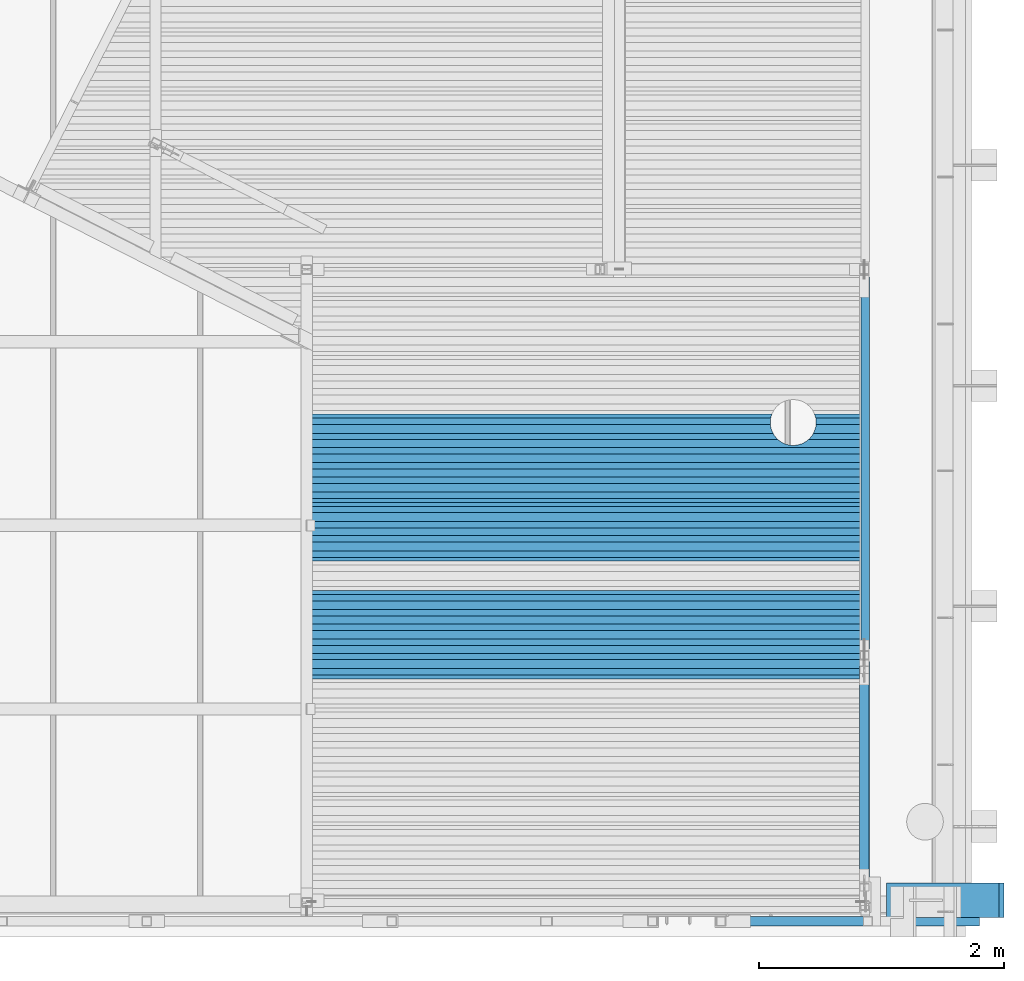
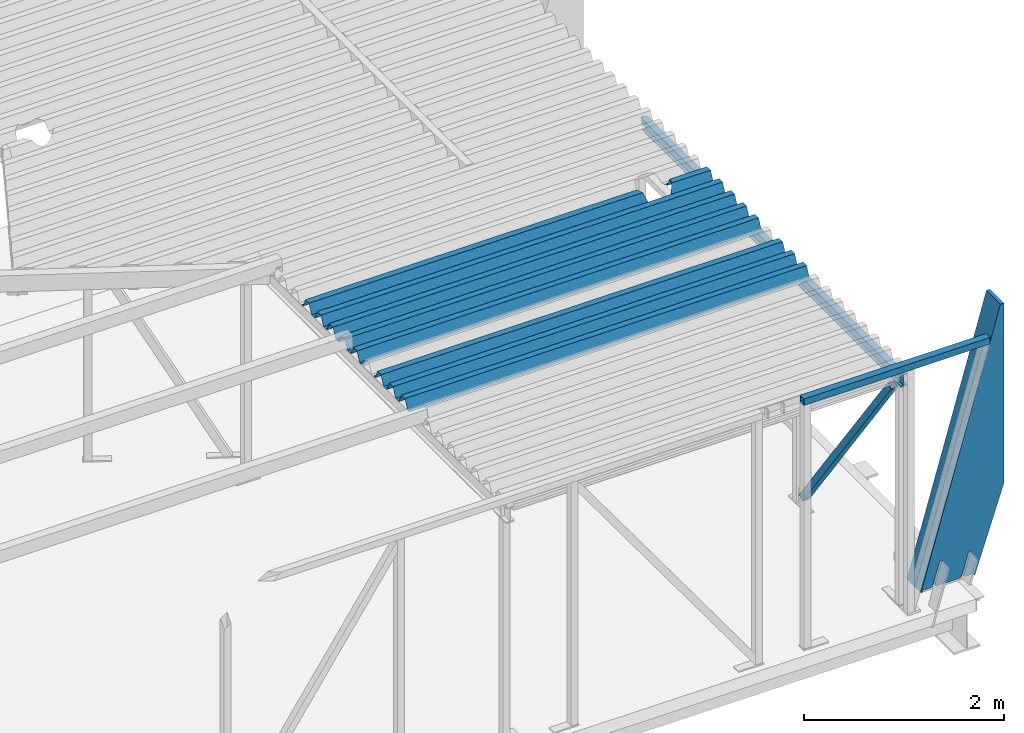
# One storey, part 8 of 30: 7 beams, 1 member.
"""IFC2X3 building model written with IfcOpenShell, lengths in millimetres."""

from ifc_helpers import new_model, entity, si_unit, converted_unit, derived_unit, direction, frame, origin_with_axes, place, context, subcontext, project, spatial, faceted_brep, material, type_object, element, save


model = new_model("IFC2X3")

# Units and contexts
model_context = context("Model", 3, precision=0.01, world=frame((0.0, 4.29681676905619e-09, 0.0)), true_north=direction((4.01073788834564e-13, 1.0)))
plan_context = context("Plan", 3, precision=0.01, world=frame((0.0, 4.29681676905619e-09, 0.0)), true_north=direction((4.01073788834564e-13, 1.0)))
body_context = subcontext(model_context, "Body", "Model", "MODEL_VIEW")
ifc_project = project(units=[converted_unit("PLANEANGLEUNIT", "DEGREE", entity("IfcPositiveLengthMeasure", 0.0174532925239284), si_unit("PLANEANGLEUNIT", "RADIAN"), dimensions=[0, 0, 0, 0, 0, 0, 0]), si_unit("AREAUNIT", "SQUARE_METRE"), si_unit("LENGTHUNIT", "METRE", prefix="MILLI"), si_unit("MASSUNIT", "GRAM", prefix="KILO"), si_unit("POWERUNIT", "WATT"), si_unit("PRESSUREUNIT", "PASCAL"), si_unit("FORCEUNIT", "NEWTON", prefix="KILO"), si_unit("ELECTRICVOLTAGEUNIT", "VOLT"), si_unit("ELECTRICCURRENTUNIT", "AMPERE"), si_unit("THERMODYNAMICTEMPERATUREUNIT", "DEGREE_CELSIUS"), si_unit("TIMEUNIT", "SECOND"), si_unit("VOLUMEUNIT", "CUBIC_METRE"), derived_unit("LINEARVELOCITYUNIT", [(si_unit("LENGTHUNIT", "METRE"), 1), (si_unit("TIMEUNIT", "SECOND"), -1)]), derived_unit("VOLUMETRICFLOWRATEUNIT", [(si_unit("VOLUMEUNIT", "CUBIC_METRE"), 1), (si_unit("TIMEUNIT", "SECOND"), -1)]), derived_unit("THERMALTRANSMITTANCEUNIT", [(si_unit("POWERUNIT", "WATT"), 1), (si_unit("THERMODYNAMICTEMPERATUREUNIT", "KELVIN"), -1), (si_unit("AREAUNIT", "SQUARE_METRE"), -1)]), derived_unit("SOUNDPRESSUREUNIT", [(si_unit("PRESSUREUNIT", "PASCAL"), 1)])], contexts=[model_context, plan_context])

# Site, building, storey
site_placement = place(None, frame((0.0, -4.29681676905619e-09, 0.0), z_axis=(0.0, 0.0, 1.0), x_axis=(1.0, 0.0, 0.0)))
site = spatial("IfcSite", under=ifc_project, at=site_placement, Name="Gardermoen", CompositionType="ELEMENT")
building_placement = place(site_placement, frame((0.0, 4.29681676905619e-09, 0.0), z_axis=(0.0, 0.0, 1.0), x_axis=(1.0, 0.0, 0.0)))
building = spatial("IfcBuilding", under=site, at=building_placement, Name="TI", CompositionType="ELEMENT")
storey_placement = place(building_placement, origin_with_axes())
storey = spatial("IfcBuildingStorey", under=building, at=storey_placement, Name="F", CompositionType="ELEMENT", Elevation=0.0)

# Beams
ifc_material_1 = material(Name="STEEL/S355J2H")
beam_type_1 = type_object("IfcBeamType", Name="IPE140", PredefinedType="NOTDEFINED")
beam_1_placement = place(storey_placement, frame((611296.991507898, 691300.064868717, 213629.999906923), z_axis=(0.0, 0.0, 1.0), x_axis=(0.0, 1.0, 0.0)))
element("IfcBeam", 1, at=beam_1_placement, inside=storey, type_object=beam_type_1, material=ifc_material_1, Name="STÅLBJELKE", ObjectType="IPE140", context=body_context, shape_type="Brep", body=[
    faceted_brep([(3089.51138991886, -36.4999998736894, 69.9999999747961), (3089.51138993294, -36.4999998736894, 63.0999998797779), (3089.51139147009, -2.34999977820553, 63.0999998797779), (3089.51139168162, 2.35000003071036, 63.0999998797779), (3089.51139321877, 36.5000001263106, 63.0999998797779), (3089.51139320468, 36.5000001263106, 69.9999999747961), (3097.51139148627, -2.34999977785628, 54.9997973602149), (3097.5113916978, 2.35000003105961, 54.9997973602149), (3135.00390028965, -2.34999977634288, 54.9997974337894), (3135.00390028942, 2.35000003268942, 54.9997974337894), (50.0000078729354, -2.34999990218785, -63.099999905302), (49.9999956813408, -36.4999999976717, -63.099999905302), (3065.0013740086, -36.4999998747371, -63.0999999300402), (3065.00137776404, -2.34999977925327, -63.0999999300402), (49.9999957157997, -36.4999999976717, -70.000000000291), (3065.00137402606, -36.4999998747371, -70.0000000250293), (50.0000217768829, 36.5000000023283, -70.000000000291), (3065.00138205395, 36.5000001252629, -70.0000000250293), (50.000021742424, 36.5000000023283, -63.099999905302), (3065.00138203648, 36.5000001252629, -63.0999999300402), (50.0000072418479, -2.34999990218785, 63.0999999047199), (49.9999950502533, -36.4999999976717, 63.0999999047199), (49.9999950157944, -36.4999999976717, 69.999999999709), (50.0000210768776, 36.5000000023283, 69.999999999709), (50.0000211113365, 36.5000000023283, 63.0999999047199), (50.000008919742, 2.34999990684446, 63.0999999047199), (50.0000095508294, 2.34999990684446, -63.099999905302), (3065.00137828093, 2.35000002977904, -63.0999999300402), (3073.00137826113, 2.35000003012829, -55.0000000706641), (3073.00137774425, -2.34999977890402, -55.0000000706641), (3135.00390029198, -2.34999977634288, -55.0000000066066), (3135.00390029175, 2.35000003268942, -55.0000000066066)], [[[0, 1, 2, 3, 4, 5]], [[6, 7, 3, 2]], [[8, 9, 7, 6]], [[10, 11, 12, 13]], [[11, 14, 15, 12]], [[14, 16, 17, 15]], [[16, 18, 19, 17]], [[14, 11, 10, 20, 21, 22, 23, 24, 25, 26, 18, 16]], [[18, 26, 27, 19]], [[12, 15, 17, 19, 27, 13]], [[13, 27, 28, 29]], [[30, 29, 28, 31]], [[2, 20, 10, 13, 29, 30, 8, 6]], [[21, 20, 2, 1]], [[22, 21, 1, 0]], [[23, 22, 0, 5]], [[24, 23, 5, 4]], [[25, 24, 4, 3]], [[31, 28, 27, 26, 25, 3, 7, 9]], [[30, 31, 9, 8]]]),
])
beam_2_placement = place(storey_placement, frame((611296.991935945, 689197.496304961, 213629.999913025), z_axis=(0.0, 0.0, 1.0), x_axis=(0.0, 1.0, 0.0)))
element("IfcBeam", 2, at=beam_2_placement, inside=storey, type_object=beam_type_1, material=ifc_material_1, Name="STÅLBJELKE", ObjectType="IPE140", context=body_context, shape_type="Brep", body=[
    faceted_brep([(0.0, 36.5, -70.0), (0.0, 36.5, -63.0999999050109), (2052.56857960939, 36.4999999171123, -63.0999999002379), (2052.56857962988, 36.4999999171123, -69.9999999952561), (0.0, 2.34999990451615, -63.0999999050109), (2052.56857264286, 2.34999982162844, -63.0999999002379), (0.0, 2.34999990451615, 63.0999999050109), (2052.56857226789, 2.34999982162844, 63.0999999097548), (0.0, 36.5, 63.0999999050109), (2052.56857923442, 36.4999999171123, 63.0999999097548), (0.0, 36.5, 70.0), (2052.56857921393, 36.4999999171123, 70.0000000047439), (0.0, -36.5, 70.0), (2052.56856432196, -36.5000000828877, 70.0000000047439), (0.0, -36.5, 63.0999999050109), (2052.56856434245, -36.5000000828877, 63.0999999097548), (0.0, -2.34999990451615, 63.0999999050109), (2052.56857130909, -2.34999998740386, 63.0999999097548), (0.0, -2.34999990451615, -63.0999999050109), (2052.56857168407, -2.34999998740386, -63.0999999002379), (0.0, -36.5, -63.0999999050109), (2052.56856471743, -36.5000000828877, -63.0999999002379), (0.0, -36.5, -70.0), (2052.56856473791, -36.5000000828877, -69.9999999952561)], [[[0, 1, 2, 3]], [[1, 4, 5, 2]], [[4, 6, 7, 5]], [[6, 8, 9, 7]], [[8, 10, 11, 9]], [[10, 12, 13, 11]], [[12, 14, 15, 13]], [[14, 16, 17, 15]], [[16, 18, 19, 17]], [[18, 20, 21, 19]], [[20, 22, 23, 21]], [[22, 0, 3, 23]], [[5, 7, 9, 11, 13, 15, 17, 19, 21, 23, 3, 2]], [[22, 20, 18, 16, 14, 12, 10, 8, 6, 4, 1, 0]]]),
])
beam_type_2 = type_object("IfcBeamType", Name="PL280*4267", PredefinedType="NOTDEFINED")
beam_3_placement = place(storey_placement, frame((611580.926887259, 689299.999863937, 220824.676036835), z_axis=(0.730066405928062, 0.0, 0.683376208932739), x_axis=(0.683376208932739, 0.0, -0.730066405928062)))
element("IfcBeam", 3, at=beam_3_placement, inside=storey, type_object=beam_type_2, Name="TREBJELKE", ObjectType="PL280*4267", context=body_context, shape_type="Brep", body=[
    faceted_brep([(7390.09727369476, 12.4996687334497, -6451.60250179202), (7199.64235973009, 12.4996687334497, -6655.06983461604), (7181.80062851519, 12.4996687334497, -6653.08312884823), (7163.00325317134, 12.4996687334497, -6621.04594817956), (7373.96174574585, 12.4996687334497, -6395.6741742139), (7392.75664105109, 12.4996687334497, -6427.71400436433), (7163.00325317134, -12.5003312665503, -6621.04594817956), (7373.96174574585, -12.5003312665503, -6395.6741742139), (7181.80062851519, -12.5003312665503, -6653.08312884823), (7199.64235973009, -12.5003312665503, -6655.06983461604), (7390.09727369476, -12.5003312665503, -6451.60250179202), (7392.75664105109, -12.5003312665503, -6427.71400436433), (7501.75748012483, -140.0, -6332.31335397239), (7501.75748012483, 119.957864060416, -6332.31335397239), (7427.70337700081, 119.957864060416, -6411.42704305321), (7427.70337700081, -140.0, -6411.42704305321), (7409.86164578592, 119.957864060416, -6409.4403372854), (7409.86164578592, -140.0, -6409.4403372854), (7265.45024865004, 119.957864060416, -6163.3139665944), (7265.45024865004, -140.0, -6163.3139665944), (7244.75066318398, 119.957864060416, -6175.45883032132), (7244.75066318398, -140.0, -6175.45883032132), (5388.53709033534, 140.0, -3937.34241097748), (5388.53709033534, -140.0, -3937.34241097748), (7097.93798790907, -140.0, -6794.45312545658), (7097.93798790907, 140.0, -6794.45312545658), (7020.52914718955, 140.0, -5408.53504620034), (5416.68961053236, 140.0, -3907.26643091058), (7523.88720665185, 140.0, -6339.40136764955), (7020.52914718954, -140.0, -5408.53504620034), (7523.88720665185, -140.0, -6339.40136764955), (7517.08880780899, 119.957864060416, -6346.6641917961), (7517.08880780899, -140.0, -6346.6641917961), (7110.48006061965, -140.0, -6781.0541286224), (7110.47979669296, 119.957864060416, -6781.05388157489), (7035.85420037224, -140.0, -6404.34031232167), (7035.85420037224, 119.957864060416, -6404.34031232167), (7015.15429217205, 119.957864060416, -6416.4861906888), (7015.15429217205, -140.0, -6416.4861906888), (7164.69563942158, 119.957864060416, -6671.35677921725), (7164.69563942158, -140.0, -6671.35677921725), (7162.03625121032, 119.957864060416, -6695.24529892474), (7162.03625121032, -140.0, -6695.24529892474), (7095.14846900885, 119.957864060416, -6766.7030437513), (7095.14846900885, -140.0, -6766.7030437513), (7181.80062851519, 119.957864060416, -6653.08312884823), (7199.64235973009, 119.957864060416, -6655.06983461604), (7390.09727369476, 119.957864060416, -6451.60250179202), (7392.75664105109, 119.957864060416, -6427.71400436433), (5416.68961053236, -140.0, -3907.26643091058), (7392.75664105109, -140.0, -6427.71400436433), (7390.09727369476, -140.0, -6451.60250179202), (7199.64235973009, -140.0, -6655.06983461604), (7181.80062851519, -140.0, -6653.08312884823)], [[[0, 1, 2, 3, 4, 5]], [[4, 3, 6, 7]], [[7, 6, 8, 9, 10, 11]], [[12, 13, 14, 15]], [[15, 14, 16, 17]], [[17, 16, 18, 19]], [[19, 18, 20, 21]], [[22, 23, 24, 25]], [[26, 27, 22, 25, 28]], [[29, 26, 28, 30]], [[31, 32, 30, 28, 25, 24, 33, 34]], [[35, 36, 37, 38]], [[38, 37, 39, 40]], [[40, 39, 41, 42]], [[42, 41, 43, 44]], [[44, 43, 34, 33]], [[34, 43, 41, 39, 37, 36, 45, 46, 47, 48, 20, 18, 16, 14, 13, 31]], [[31, 13, 12, 32]], [[23, 49, 29, 30, 32, 12, 15, 17, 19, 21, 50, 51, 52, 53, 35, 38, 40, 42, 44, 33, 24]], [[7, 11, 50, 21, 20, 48, 5, 4]], [[0, 5, 48, 47]], [[1, 0, 47, 46]], [[2, 1, 46, 45]], [[8, 6, 3, 2, 45, 36, 35, 53]], [[9, 8, 53, 52]], [[10, 9, 52, 51]], [[11, 10, 51, 50]], [[27, 26, 29, 49]], [[49, 23, 22, 27]]], orient=[[False], [False], [False], [False], [False], [False], [False], [False], [False], [False], [False], [False], [False], [False], [False], [False], [False], [False], [False], [False], [False], [False], [False], [False], [False], [False], [False], [False], [False]]),
])
ifc_material_2 = material(Name="STEEL/S355")
beam_type_3 = type_object("IfcBeamType", Name="RHS80*80*6.3", PredefinedType="NOTDEFINED")
beam_4_placement = place(storey_placement, frame((610079.992392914, 689127.50260355, 213855.000686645), z_axis=(0.0, 0.0, 1.0), x_axis=(1.0, 0.0, 0.0)))
element("IfcBeam", 4, at=beam_4_placement, inside=storey, type_object=beam_type_3, material=ifc_material_2, Name="STÅLBJELKE", ObjectType="RHS80*80*6.3", context=body_context, shape_type="Brep", body=[
    faceted_brep([(0.0, 33.6999998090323, -33.6999998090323), (0.0, -33.6999998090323, -33.6999998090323), (2149.02521417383, -33.699999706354, -33.6999998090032), (2149.02521417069, 33.6999999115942, -33.6999998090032), (0.0, -33.6999998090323, 33.6999998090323), (2149.02521417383, -33.699999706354, 33.6999998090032), (0.0, 33.6999998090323, 33.6999998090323), (2149.02521417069, 33.6999999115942, 33.6999998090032), (0.0, 40.0, -40.0), (0.0, 40.0, 40.0), (2149.02521417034, 40.0000001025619, 40.0), (2149.02521417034, 40.0000001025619, -40.0), (0.0, -40.0, 40.0), (2149.02521417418, -39.9999998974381, 40.0), (0.0, -40.0, -40.0), (2149.02521417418, -39.9999998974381, -40.0)], [[[0, 1, 2, 3]], [[1, 4, 5, 2]], [[4, 6, 7, 5]], [[6, 0, 3, 7]], [[8, 9, 10, 11]], [[9, 12, 13, 10]], [[12, 14, 15, 13]], [[14, 8, 11, 15]], [[13, 15, 11, 10], [5, 7, 3, 2]], [[14, 12, 9, 8], [6, 4, 1, 0]]]),
])
beam_type_4 = type_object("IfcBeamType", Name="PLANNJA111", PredefinedType="NOTDEFINED")
beam_5_placement = place(storey_placement, frame((606690.830439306, 692907.497611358, 213755.499847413), z_axis=(0.0, 0.0, 1.0), x_axis=(1.0, 0.0, 0.0)))
element("IfcBeam", 5, at=beam_5_placement, inside=storey, type_object=beam_type_4, material=ifc_material_1, Name="STÅLBJELKE", ObjectType="PLANNJA111", context=body_context, shape_type="Brep", body=[
    faceted_brep([(4192.54764814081, 360.000000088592, -54.7500000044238), (4192.54764812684, 360.000000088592, -55.7500000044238), (4201.90370318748, 329.157251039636, -55.7500000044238), (4201.90370320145, 329.157251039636, -54.7500000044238), (3843.46529050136, 360.000000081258, -54.7500000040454), (3834.10922305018, 329.157148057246, -54.7500000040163), (3834.10922303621, 329.157148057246, -55.7500000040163), (3843.46529048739, 360.000000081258, -55.7500000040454), (3834.00844331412, 328.133911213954, -54.7500000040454), (3830.50647442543, 292.577711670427, 20.6128485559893), (3830.50647439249, 292.577711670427, 18.2692474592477), (3833.94600868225, 327.500000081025, -55.7500000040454), (3834.10924508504, 255.998277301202, 55.7499999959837), (3834.10924507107, 255.998277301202, 54.7499999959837), (3832.20167665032, 275.366088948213, 54.7499999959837), (3832.13924168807, 276.000000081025, 55.7499999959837), (3844.77908266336, 220.824572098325, 55.7499999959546), (3844.77908264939, 220.824572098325, 54.7499999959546), (3862.10595131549, 188.408301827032, 22.7027449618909), (3862.10595128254, 188.408301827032, 20.3591438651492), (3853.43317702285, 204.633911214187, 54.7499999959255), (3853.77200982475, 204.000000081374, 55.7499999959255), (3885.42398926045, 159.995205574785, -37.5199981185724), (3885.42398922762, 159.995205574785, -39.863599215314), (3913.83709832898, 136.677182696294, -54.7500000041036), (3913.83709831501, 136.677182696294, -55.7500000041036), (3894.55692854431, 152.500000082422, -55.7500000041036), (3895.32935194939, 151.866088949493, -54.7500000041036), (3946.25337830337, 119.350331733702, -54.7500000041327), (3946.25337828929, 119.350331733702, -55.7500000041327), (3981.42708948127, 108.680513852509, -54.750000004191), (3981.4270894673, 108.680513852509, -55.750000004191), (4018.00652586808, 105.077764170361, -54.7500000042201), (4018.00652585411, 105.077764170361, -55.7500000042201), (4054.58596023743, 108.680534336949, -54.7500000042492), (4054.58596022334, 108.680534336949, -55.7500000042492), (4089.75966544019, 119.350371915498, -54.7500000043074), (4089.75966542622, 119.350371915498, -55.7500000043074), (4122.17593571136, 136.677241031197, -54.7500000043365), (4122.17593569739, 136.677241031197, -55.7500000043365), (4150.5890322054, 159.995279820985, -37.5198407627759), (4150.58903217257, 159.995279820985, -39.8634418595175), (4141.45601239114, 152.500000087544, -55.7500000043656), (4140.68358989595, 151.866088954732, -54.7500000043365), (4173.90705592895, 188.408389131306, 22.7029299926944), (4173.90705589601, 188.408389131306, 20.3593288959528), (4191.23390735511, 220.824669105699, 55.7499999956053), (4191.23390734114, 220.824669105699, 54.7499999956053), (4182.57977278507, 204.633911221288, 54.7499999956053), (4182.24094046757, 204.000000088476, 55.7499999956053), (4201.90372523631, 255.998380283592, 55.7499999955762), (4201.90372522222, 255.998380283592, 54.7499999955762), (4205.50647442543, 292.577816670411, 20.6126260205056), (4205.50647439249, 292.577816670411, 18.2690249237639), (4203.81127255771, 275.366088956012, 54.7499999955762), (4203.87370718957, 276.000000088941, 55.7499999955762), (4202.00449367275, 328.133911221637, -54.7500000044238), (4202.06692863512, 327.500000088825, -55.7500000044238), (2.56113708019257e-09, -35.3660888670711, 54.75), (1.39698386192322e-09, 35.3660888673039, 54.75), (4635.31149586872, 35.3660889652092, 54.7499999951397), (4635.31149587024, -35.3660887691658, 54.7499999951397), (-6.98491930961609e-10, -87.4999999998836, -55.75), (4635.31149586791, -87.4999999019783, -55.7500000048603), (3.49245965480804e-10, -152.499999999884, -55.75), (4635.3114958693, -152.499999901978, -55.7500000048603), (5.23868948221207e-09, -204.633911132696, 54.75), (4635.31149587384, -204.633911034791, 54.7499999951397), (6.40284270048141e-09, -275.366088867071, 54.75), (4635.31149587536, -275.366088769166, 54.7499999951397), (3.14321368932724e-09, -327.499999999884, -55.75), (4635.31149587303, -327.499999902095, -55.7500000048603), (3.72529029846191e-09, -359.999999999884, -55.75), (4635.31149587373, -359.999999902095, -55.7500000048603), (3.72529029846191e-09, -359.999999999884, -54.75), (4635.31149587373, -359.999999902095, -54.7500000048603), (3.25962901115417e-09, -328.133911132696, -54.75), (4635.31149587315, -328.133911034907, -54.7500000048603), (6.40284270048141e-09, -275.999999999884, 55.75), (4635.31149587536, -275.999999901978, 55.7499999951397), (5.23868948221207e-09, -203.999999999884, 55.75), (4635.31149587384, -203.999999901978, 55.7499999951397), (4.65661287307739e-10, -151.866088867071, -54.75), (4635.31149586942, -151.866088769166, -54.7500000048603), (-5.82076609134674e-10, -88.1339111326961, -54.75), (4635.31149586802, -88.1339110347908, -54.7500000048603), (2.56113708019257e-09, -35.9999999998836, 55.75), (4635.31149587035, -35.9999999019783, 55.7499999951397), (1.39698386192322e-09, 36.0000000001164, 55.75), (4635.31149586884, 36.0000000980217, 55.7499999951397), (-3.37604433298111e-09, 88.1339111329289, -54.75), (4635.3114958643, 88.1339112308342, -54.7500000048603), (-7.79982656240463e-09, 360.000000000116, -55.75), (-7.33416527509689e-09, 327.500000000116, -55.75), (-2.44472175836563e-09, 275.366088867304, 54.75), (-1.28056854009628e-09, 204.633911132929, 54.75), (-4.54019755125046e-09, 152.500000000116, -55.75), (-3.49245965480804e-09, 87.5000000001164, -55.75), (-4.42378222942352e-09, 151.866088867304, -54.75), (-1.28056854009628e-09, 204.000000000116, 55.75), (-2.44472175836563e-09, 276.000000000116, 55.75), (-7.21774995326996e-09, 328.133911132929, -54.75), (-7.79982656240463e-09, 360.000000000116, -54.75), (4635.3114958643, 87.5000000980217, -55.7500000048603), (4635.31149586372, 276.000000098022, 55.7499999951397), (4635.31149586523, 204.000000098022, 55.7499999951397), (4635.31149586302, 151.866088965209, -54.7500000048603), (4635.3114958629, 152.500000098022, -55.7500000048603), (4635.31149586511, 204.633911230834, 54.7499999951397), (4635.31149586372, 275.366088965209, 54.7499999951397), (4635.31149585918, 327.500000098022, -55.7500000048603), (4635.31149585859, 360.000000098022, -55.7500000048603), (4635.31149585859, 360.000000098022, -54.7500000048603), (4635.31149585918, 328.133911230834, -54.7500000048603)], [[[0, 1, 2, 3]], [[4, 5, 6, 7]], [[8, 9, 10, 11, 6, 5]], [[12, 13, 14, 10, 9, 15]], [[16, 17, 13, 12]], [[18, 19, 20, 17, 16, 21]], [[22, 23, 19, 18]], [[24, 25, 26, 23, 22, 27]], [[28, 29, 25, 24]], [[30, 31, 29, 28]], [[32, 33, 31, 30]], [[34, 35, 33, 32]], [[36, 37, 35, 34]], [[38, 39, 37, 36]], [[40, 41, 42, 39, 38, 43]], [[44, 45, 41, 40]], [[46, 47, 48, 45, 44, 49]], [[50, 51, 47, 46]], [[52, 53, 54, 51, 50, 55]], [[56, 3, 2, 57, 53, 52]], [[58, 59, 60, 61]], [[62, 58, 61, 63]], [[64, 62, 63, 65]], [[66, 64, 65, 67]], [[68, 66, 67, 69]], [[70, 68, 69, 71]], [[72, 70, 71, 73]], [[74, 72, 73, 75]], [[76, 74, 75, 77]], [[78, 76, 77, 79]], [[80, 78, 79, 81]], [[82, 80, 81, 83]], [[84, 82, 83, 85]], [[86, 84, 85, 87]], [[88, 86, 87, 89]], [[90, 88, 89, 91]], [[92, 93, 94, 95, 96, 97, 59, 58, 62, 64, 66, 68, 70, 72, 74, 76, 78, 80, 82, 84, 86, 88, 90, 98, 99, 100, 101, 102]], [[59, 97, 103, 60]], [[104, 105, 106, 91, 89, 87, 85, 83, 81, 79, 77, 75, 73, 71, 69, 67, 65, 63, 61, 60, 103, 107, 108, 109, 110, 111, 112, 113]], [[46, 49, 105, 104, 55, 50]], [[40, 43, 106, 105, 49, 44]], [[36, 34, 32, 30, 28, 24, 27, 98, 90, 91, 106, 43, 38]], [[18, 21, 99, 98, 27, 22]], [[12, 15, 100, 99, 21, 16]], [[101, 100, 15, 9, 8]], [[102, 101, 8, 5, 4]], [[92, 102, 4, 7]], [[11, 93, 92, 7, 6]], [[14, 94, 93, 11, 10]], [[95, 94, 14, 13, 17, 20]], [[96, 95, 20, 19, 23, 26]], [[107, 103, 97, 96, 26, 25, 29, 31, 33, 35, 37, 39, 42]], [[108, 107, 42, 41, 45, 48]], [[109, 108, 48, 47, 51, 54]], [[110, 109, 54, 53, 57]], [[1, 111, 110, 57, 2]], [[112, 111, 1, 0]], [[113, 112, 0, 3, 56]], [[104, 113, 56, 52, 55]]]),
])
beam_6_placement = place(storey_placement, frame((606690.830439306, 692427.497611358, 213755.499847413), z_axis=(0.0, 0.0, 1.0), x_axis=(1.0, 0.0, 0.0)))
element("IfcBeam", 6, at=beam_6_placement, inside=storey, type_object=beam_type_4, material=ifc_material_1, Name="STÅLBJELKE", ObjectType="PLANNJA111", context=body_context, shape_type="Brep", body=[
    faceted_brep([(-7.79982656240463e-09, 360.000000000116, -54.75), (-7.21774995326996e-09, 328.133911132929, -54.75), (4635.31149585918, 328.133911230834, -54.7500000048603), (4635.31149585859, 360.000000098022, -54.7500000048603), (-2.44472175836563e-09, 276.000000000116, 55.75), (4635.31149586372, 276.000000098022, 55.7499999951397), (-1.28056854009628e-09, 204.000000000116, 55.75), (4635.31149586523, 204.000000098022, 55.7499999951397), (-4.42378222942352e-09, 151.866088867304, -54.75), (4635.31149586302, 151.866088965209, -54.7500000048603), (-3.37604433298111e-09, 88.1339111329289, -54.75), (4635.3114958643, 88.1339112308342, -54.7500000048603), (1.39698386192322e-09, 36.0000000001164, 55.75), (4635.31149586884, 36.0000000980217, 55.7499999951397), (2.56113708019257e-09, -35.9999999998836, 55.75), (4635.31149587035, -35.9999999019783, 55.7499999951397), (-5.82076609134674e-10, -88.1339111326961, -54.75), (4635.31149586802, -88.1339110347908, -54.7500000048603), (4.65661287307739e-10, -151.866088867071, -54.75), (4635.31149586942, -151.866088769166, -54.7500000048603), (5.23868948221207e-09, -203.999999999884, 55.75), (4635.31149587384, -203.999999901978, 55.7499999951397), (6.40284270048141e-09, -275.999999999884, 55.75), (4635.31149587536, -275.999999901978, 55.7499999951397), (3.25962901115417e-09, -328.133911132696, -54.75), (4635.31149587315, -328.133911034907, -54.7500000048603), (3.72529029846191e-09, -359.999999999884, -54.75), (4635.31149587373, -359.999999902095, -54.7500000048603), (3.72529029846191e-09, -359.999999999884, -55.75), (4635.31149587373, -359.999999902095, -55.7500000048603), (3.14321368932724e-09, -327.499999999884, -55.75), (4635.31149587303, -327.499999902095, -55.7500000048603), (6.40284270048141e-09, -275.366088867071, 54.75), (4635.31149587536, -275.366088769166, 54.7499999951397), (5.23868948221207e-09, -204.633911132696, 54.75), (4635.31149587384, -204.633911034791, 54.7499999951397), (3.49245965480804e-10, -152.499999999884, -55.75), (4635.3114958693, -152.499999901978, -55.7500000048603), (-6.98491930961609e-10, -87.4999999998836, -55.75), (4635.31149586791, -87.4999999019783, -55.7500000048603), (2.56113708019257e-09, -35.3660888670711, 54.75), (4635.31149587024, -35.3660887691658, 54.7499999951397), (1.39698386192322e-09, 35.3660888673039, 54.75), (4635.31149586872, 35.3660889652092, 54.7499999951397), (-3.49245965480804e-09, 87.5000000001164, -55.75), (4635.3114958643, 87.5000000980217, -55.7500000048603), (-4.54019755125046e-09, 152.500000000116, -55.75), (4635.3114958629, 152.500000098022, -55.7500000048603), (-1.28056854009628e-09, 204.633911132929, 54.75), (4635.31149586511, 204.633911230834, 54.7499999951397), (-2.44472175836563e-09, 275.366088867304, 54.75), (4635.31149586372, 275.366088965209, 54.7499999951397), (-7.33416527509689e-09, 327.500000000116, -55.75), (4635.31149585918, 327.500000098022, -55.7500000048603), (-7.79982656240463e-09, 360.000000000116, -55.75), (4635.31149585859, 360.000000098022, -55.7500000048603)], [[[0, 1, 2, 3]], [[1, 4, 5, 2]], [[4, 6, 7, 5]], [[6, 8, 9, 7]], [[8, 10, 11, 9]], [[10, 12, 13, 11]], [[12, 14, 15, 13]], [[14, 16, 17, 15]], [[16, 18, 19, 17]], [[18, 20, 21, 19]], [[20, 22, 23, 21]], [[22, 24, 25, 23]], [[24, 26, 27, 25]], [[26, 28, 29, 27]], [[28, 30, 31, 29]], [[30, 32, 33, 31]], [[32, 34, 35, 33]], [[34, 36, 37, 35]], [[36, 38, 39, 37]], [[38, 40, 41, 39]], [[40, 42, 43, 41]], [[42, 44, 45, 43]], [[44, 46, 47, 45]], [[46, 48, 49, 47]], [[48, 50, 51, 49]], [[50, 52, 53, 51]], [[52, 54, 55, 53]], [[54, 0, 3, 55]], [[5, 7, 9, 11, 13, 15, 17, 19, 21, 23, 25, 27, 29, 31, 33, 35, 37, 39, 41, 43, 45, 47, 49, 51, 53, 55, 3, 2]], [[54, 52, 50, 48, 46, 44, 42, 40, 38, 36, 34, 32, 30, 28, 26, 24, 22, 20, 18, 16, 14, 12, 10, 8, 6, 4, 1, 0]]]),
])
beam_7_placement = place(storey_placement, frame((606690.830439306, 691467.497611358, 213755.499847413), z_axis=(0.0, 0.0, 1.0), x_axis=(1.0, 0.0, 0.0)))
element("IfcBeam", 7, at=beam_7_placement, inside=storey, type_object=beam_type_4, material=ifc_material_1, Name="STÅLBJELKE", ObjectType="PLANNJA111", context=body_context, shape_type="Brep", body=[
    faceted_brep([(-7.79982656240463e-09, 360.000000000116, -54.75), (-7.21774995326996e-09, 328.133911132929, -54.75), (4635.31149585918, 328.133911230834, -54.7500000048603), (4635.31149585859, 360.000000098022, -54.7500000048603), (-2.44472175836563e-09, 276.000000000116, 55.75), (4635.31149586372, 276.000000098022, 55.7499999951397), (-1.28056854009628e-09, 204.000000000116, 55.75), (4635.31149586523, 204.000000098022, 55.7499999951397), (-4.42378222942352e-09, 151.866088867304, -54.75), (4635.31149586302, 151.866088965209, -54.7500000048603), (-3.37604433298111e-09, 88.1339111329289, -54.75), (4635.3114958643, 88.1339112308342, -54.7500000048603), (1.39698386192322e-09, 36.0000000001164, 55.75), (4635.31149586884, 36.0000000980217, 55.7499999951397), (2.56113708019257e-09, -35.9999999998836, 55.75), (4635.31149587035, -35.9999999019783, 55.7499999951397), (-5.82076609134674e-10, -88.1339111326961, -54.75), (4635.31149586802, -88.1339110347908, -54.7500000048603), (4.65661287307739e-10, -151.866088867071, -54.75), (4635.31149586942, -151.866088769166, -54.7500000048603), (5.23868948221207e-09, -203.999999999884, 55.75), (4635.31149587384, -203.999999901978, 55.7499999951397), (6.40284270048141e-09, -275.999999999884, 55.75), (4635.31149587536, -275.999999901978, 55.7499999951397), (3.25962901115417e-09, -328.133911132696, -54.75), (4635.31149587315, -328.133911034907, -54.7500000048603), (3.72529029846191e-09, -359.999999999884, -54.75), (4635.31149587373, -359.999999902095, -54.7500000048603), (3.72529029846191e-09, -359.999999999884, -55.75), (4635.31149587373, -359.999999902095, -55.7500000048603), (3.14321368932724e-09, -327.499999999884, -55.75), (4635.31149587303, -327.499999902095, -55.7500000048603), (6.40284270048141e-09, -275.366088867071, 54.75), (4635.31149587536, -275.366088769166, 54.7499999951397), (5.23868948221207e-09, -204.633911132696, 54.75), (4635.31149587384, -204.633911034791, 54.7499999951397), (3.49245965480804e-10, -152.499999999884, -55.75), (4635.3114958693, -152.499999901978, -55.7500000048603), (-6.98491930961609e-10, -87.4999999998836, -55.75), (4635.31149586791, -87.4999999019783, -55.7500000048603), (2.56113708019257e-09, -35.3660888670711, 54.75), (4635.31149587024, -35.3660887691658, 54.7499999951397), (1.39698386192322e-09, 35.3660888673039, 54.75), (4635.31149586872, 35.3660889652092, 54.7499999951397), (-3.49245965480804e-09, 87.5000000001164, -55.75), (4635.3114958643, 87.5000000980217, -55.7500000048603), (-4.54019755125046e-09, 152.500000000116, -55.75), (4635.3114958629, 152.500000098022, -55.7500000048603), (-1.28056854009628e-09, 204.633911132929, 54.75), (4635.31149586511, 204.633911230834, 54.7499999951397), (-2.44472175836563e-09, 275.366088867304, 54.75), (4635.31149586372, 275.366088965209, 54.7499999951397), (-7.33416527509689e-09, 327.500000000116, -55.75), (4635.31149585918, 327.500000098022, -55.7500000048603), (-7.79982656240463e-09, 360.000000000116, -55.75), (4635.31149585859, 360.000000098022, -55.7500000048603)], [[[0, 1, 2, 3]], [[1, 4, 5, 2]], [[4, 6, 7, 5]], [[6, 8, 9, 7]], [[8, 10, 11, 9]], [[10, 12, 13, 11]], [[12, 14, 15, 13]], [[14, 16, 17, 15]], [[16, 18, 19, 17]], [[18, 20, 21, 19]], [[20, 22, 23, 21]], [[22, 24, 25, 23]], [[24, 26, 27, 25]], [[26, 28, 29, 27]], [[28, 30, 31, 29]], [[30, 32, 33, 31]], [[32, 34, 35, 33]], [[34, 36, 37, 35]], [[36, 38, 39, 37]], [[38, 40, 41, 39]], [[40, 42, 43, 41]], [[42, 44, 45, 43]], [[44, 46, 47, 45]], [[46, 48, 49, 47]], [[48, 50, 51, 49]], [[50, 52, 53, 51]], [[52, 54, 55, 53]], [[54, 0, 3, 55]], [[5, 7, 9, 11, 13, 15, 17, 19, 21, 23, 25, 27, 29, 31, 33, 35, 37, 39, 41, 43, 45, 47, 49, 51, 53, 55, 3, 2]], [[54, 52, 50, 48, 46, 44, 42, 40, 38, 36, 34, 32, 30, 28, 26, 24, 22, 20, 18, 16, 14, 12, 10, 8, 6, 4, 1, 0]]]),
])

# Member
member_type = type_object("IfcMemberType", Name="RHS80*8", PredefinedType="NOTDEFINED")
member_placement = place(storey_placement, frame((611289.640028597, 691300.067882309, 210845.00006958), z_axis=(-2.48429132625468e-07, 0.809478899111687, 0.587148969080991), x_axis=(0.0, -0.587148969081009, 0.809478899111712)))
element("IfcMember", 8, at=member_placement, inside=storey, type_object=member_type, material=ifc_material_1, Name="STÅLDIAGONAL", ObjectType="RHS80*8", context=body_context, shape_type="Brep", body=[
    faceted_brep([(3228.03505317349, 4.99998809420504, 40.0000000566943), (3128.03505319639, 4.99998809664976, 40.0000000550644), (3128.03505319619, 4.99999008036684, 32.0000000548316), (3228.03505317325, 4.99999007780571, 32.0000000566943), (3128.03505319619, -5.00001190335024, 40.000000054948), (3128.03505319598, -5.00000991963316, 32.0000000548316), (3228.03505317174, -5.00001190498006, 40.0000000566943), (3228.03505317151, -5.00000992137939, 32.0000000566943), (3228.03505317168, 5.0000059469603, -31.9999999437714), (3128.03505319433, 5.00000595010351, -31.999999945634), (3128.03505319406, 5.0000079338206, -39.9999999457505), (3228.03505317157, 5.00000793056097, -39.9999999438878), (3128.03505319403, -4.99999404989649, -31.9999999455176), (3128.03505319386, -4.9999920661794, -39.9999999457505), (3228.03505317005, -4.99999405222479, -31.9999999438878), (3228.03505316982, -4.99999206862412, -39.9999999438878), (206.126841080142, 32.0, 32.0000000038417), (206.1268410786, 32.0, -31.999999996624), (3228.03505317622, 32.0, -31.9999999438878), (3228.03505317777, 32.0, 32.0000000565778), (3228.03505316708, -32.0, 32.0000000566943), (206.126841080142, -32.0, 32.0000000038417), (206.126841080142, -4.99999994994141, 32.0000000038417), (306.126841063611, -4.99999994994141, 32.0000000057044), (306.126841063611, 5.00000005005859, 32.0000000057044), (206.126841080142, 5.00000005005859, 32.0000000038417), (206.1268410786, -32.0, -31.999999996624), (3228.03505316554, -32.0, -31.9999999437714), (206.1268410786, 5.00000005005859, -31.999999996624), (306.126841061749, 5.00000005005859, -31.9999999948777), (306.126841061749, -4.99999994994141, -31.9999999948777), (206.1268410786, -4.99999994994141, -31.999999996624), (206.126841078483, 5.00000005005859, -39.9999999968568), (306.126841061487, 5.00000005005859, -39.9999999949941), (306.126841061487, -4.99999994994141, -39.9999999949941), (206.126841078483, -4.99999994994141, -39.9999999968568), (206.126841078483, -40.0, -39.9999999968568), (206.126841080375, -40.0, 40.0000000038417), (206.126841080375, -4.99999994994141, 40.0000000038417), (306.126841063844, -4.99999994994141, 40.0000000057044), (306.126841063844, 5.00000005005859, 40.0000000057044), (206.126841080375, 5.00000005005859, 40.0000000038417), (206.126841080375, 40.0, 40.0000000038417), (206.126841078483, 40.0, -39.9999999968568), (3228.03505317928, 40.0, 40.0000000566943), (3228.03505317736, 40.0, -39.9999999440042), (3228.03505316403, -40.0, -39.9999999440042), (3228.03505316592, -40.0, 40.0000000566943)], [[[0, 1, 2, 3]], [[4, 5, 2, 1]], [[6, 7, 5, 4]], [[8, 9, 10, 11]], [[12, 13, 10, 9]], [[14, 15, 13, 12]], [[16, 17, 18, 19]], [[20, 21, 22, 23, 24, 25, 16, 19, 3, 2, 5, 7]], [[26, 21, 20, 27]], [[9, 8, 18, 17, 28, 29, 30, 31, 26, 27, 14, 12]], [[28, 32, 33, 29]], [[29, 33, 34, 30]], [[30, 34, 35, 31]], [[21, 26, 31, 35, 36, 37, 38, 22]], [[39, 23, 22, 38]], [[40, 24, 23, 39]], [[41, 25, 24, 40]], [[42, 43, 32, 28, 17, 16, 25, 41]], [[43, 42, 44, 45]], [[19, 18, 8, 11, 45, 44, 0, 3]], [[46, 36, 35, 34, 33, 32, 43, 45, 11, 10, 13, 15]], [[37, 36, 46, 47]], [[1, 0, 44, 42, 41, 40, 39, 38, 37, 47, 6, 4]], [[47, 46, 15, 14, 27, 20, 7, 6]]]),
])

save(model, "model.ifc")
